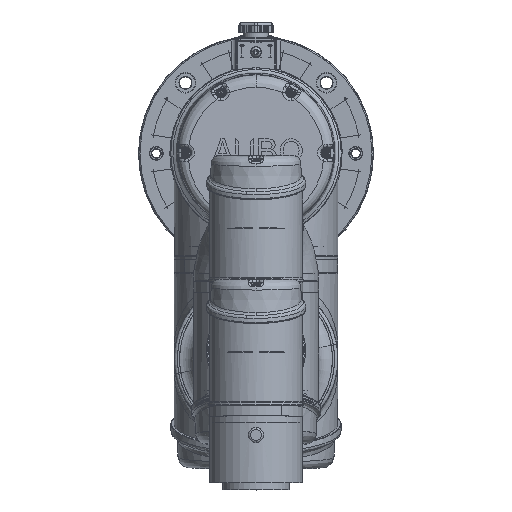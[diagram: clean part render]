
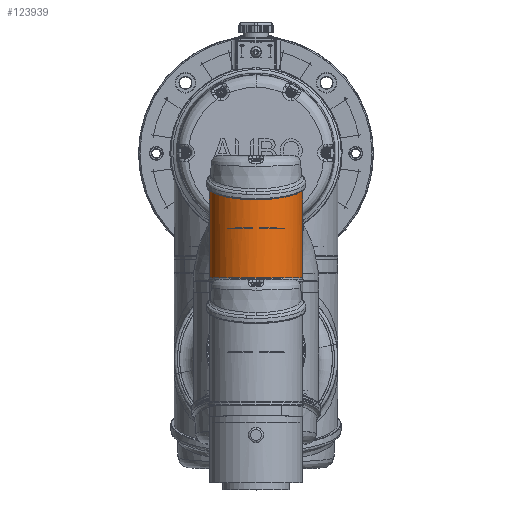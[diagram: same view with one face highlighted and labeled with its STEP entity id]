
A CAD part, top view. The second image highlights one B-rep face of the part: STEP entity #123939.
In plain terms, the highlighted cylindrical face has radius 43.5 mm (diameter 87 mm), a partial arc.
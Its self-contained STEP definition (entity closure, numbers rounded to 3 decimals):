
#1757 = VERTEX_POINT ( 'NONE', #80976 ) ;
#4705 = DIRECTION ( 'NONE',  ( 0., 0., 1. ) ) ;
#5642 = CARTESIAN_POINT ( 'NONE',  ( 234.37, -37.85, -43.501 ) ) ;
#14863 = CARTESIAN_POINT ( 'NONE',  ( 234.37, 50.424, -43.501 ) ) ;
#20377 = CARTESIAN_POINT ( 'NONE',  ( 277.87, 46.424, -0.001 ) ) ;
#24865 = EDGE_LOOP ( 'NONE', ( #201628, #228694, #94414, #209043, #199135, #112340, #179066 ) ) ;
#30507 = CARTESIAN_POINT ( 'NONE',  ( 234.37, 46.424, -0.001 ) ) ;
#34191 = VECTOR ( 'NONE', #182249, 1000. ) ;
#42222 = DIRECTION ( 'NONE',  ( 0., 1., 0. ) ) ;
#42773 = LINE ( 'NONE', #98422, #199361 ) ;
#48316 = CIRCLE ( 'NONE', #206643, 43.5 ) ;
#49306 = EDGE_CURVE ( 'NONE', #203910, #199887, #42773, .T. ) ;
#50416 = LINE ( 'NONE', #183429, #57322 ) ;
#53633 = CARTESIAN_POINT ( 'NONE',  ( 234.37, 50.424, -0.001 ) ) ;
#54816 = DIRECTION ( 'NONE',  ( 0., 0., -1. ) ) ;
#54894 = VERTEX_POINT ( 'NONE', #190217 ) ;
#57322 = VECTOR ( 'NONE', #145964, 1000. ) ;
#57649 = CARTESIAN_POINT ( 'NONE',  ( 321.37, -14.538, 43.499 ) ) ;
#60060 = CARTESIAN_POINT ( 'NONE',  ( 234.37, -37.85, 43.499 ) ) ;
#66607 = CARTESIAN_POINT ( 'NONE',  ( 234.37, 46.424, -43.501 ) ) ;
#70445 = DIRECTION ( 'NONE',  ( 0., -1., 0. ) ) ;
#73653 = AXIS2_PLACEMENT_3D ( 'NONE', #30507, #88529, #234856 ) ;
#80976 = CARTESIAN_POINT ( 'NONE',  ( 234.37, -37.85, 43.499 ) ) ;
#88236 = AXIS2_PLACEMENT_3D ( 'NONE', #53633, #125170, #54816 ) ;
#88529 = DIRECTION ( 'NONE',  ( 0., 1., 0. ) ) ;
#94414 = ORIENTED_EDGE ( 'NONE', *, *, #140500, .T. ) ;
#98422 = CARTESIAN_POINT ( 'NONE',  ( 234.37, 50.424, 43.499 ) ) ;
#98806 = CARTESIAN_POINT ( 'NONE',  ( 321.37, -14.538, -43.501 ) ) ;
#100526 = VERTEX_POINT ( 'NONE', #20377 ) ;
#105319 = EDGE_CURVE ( 'NONE', #100526, #127688, #48316, .T. ) ;
#108538 = LINE ( 'NONE', #164045, #34191 ) ;
#112340 = ORIENTED_EDGE ( 'NONE', *, *, #224281, .F. ) ;
#112626 = EDGE_CURVE ( 'NONE', #203910, #100526, #177947, .T. ) ;
#117017 = CARTESIAN_POINT ( 'NONE',  ( 234.37, -1.076, -43.501 ) ) ;
#122600 = LINE ( 'NONE', #14863, #129263 ) ;
#123939 = ADVANCED_FACE ( 'NONE', ( #179502 ), #128720, .T. ) ;
#125170 = DIRECTION ( 'NONE',  ( 0., -1., 0. ) ) ;
#127281 = EDGE_CURVE ( 'NONE', #54894, #1757, #128375, .T. ) ;
#127688 = VERTEX_POINT ( 'NONE', #66607 ) ;
#128375 =( BOUNDED_CURVE ( )  B_SPLINE_CURVE ( 3, ( #5642, #98806, #57649, #60060 ),
 .UNSPECIFIED., .F., .F. ) 
 B_SPLINE_CURVE_WITH_KNOTS ( ( 4, 4 ),
 ( 1.571, 4.712 ),
 .UNSPECIFIED. ) 
 CURVE ( )  GEOMETRIC_REPRESENTATION_ITEM ( )  RATIONAL_B_SPLINE_CURVE ( ( 1., 0.333, 0.333, 1. ) ) 
 REPRESENTATION_ITEM ( '' )  );
#128720 = CYLINDRICAL_SURFACE ( 'NONE', #88236, 43.5 ) ;
#129263 = VECTOR ( 'NONE', #70445, 1000. ) ;
#130600 = EDGE_CURVE ( 'NONE', #195270, #54894, #122600, .T. ) ;
#140500 = EDGE_CURVE ( 'NONE', #199887, #1757, #50416, .T. ) ;
#145964 = DIRECTION ( 'NONE',  ( 0., -1., 0. ) ) ;
#164045 = CARTESIAN_POINT ( 'NONE',  ( 234.37, 50.424, -43.501 ) ) ;
#177947 = CIRCLE ( 'NONE', #73653, 43.5 ) ;
#179066 = ORIENTED_EDGE ( 'NONE', *, *, #105319, .F. ) ;
#179502 = FACE_OUTER_BOUND ( 'NONE', #24865, .T. ) ;
#182249 = DIRECTION ( 'NONE',  ( 0., -1., 0. ) ) ;
#183429 = CARTESIAN_POINT ( 'NONE',  ( 234.37, 50.424, 43.499 ) ) ;
#190217 = CARTESIAN_POINT ( 'NONE',  ( 234.37, -37.85, -43.501 ) ) ;
#195270 = VERTEX_POINT ( 'NONE', #117017 ) ;
#198710 = CARTESIAN_POINT ( 'NONE',  ( 234.37, 46.424, 43.499 ) ) ;
#199135 = ORIENTED_EDGE ( 'NONE', *, *, #130600, .F. ) ;
#199361 = VECTOR ( 'NONE', #230220, 1000. ) ;
#199887 = VERTEX_POINT ( 'NONE', #237646 ) ;
#201628 = ORIENTED_EDGE ( 'NONE', *, *, #112626, .F. ) ;
#203910 = VERTEX_POINT ( 'NONE', #198710 ) ;
#206643 = AXIS2_PLACEMENT_3D ( 'NONE', #222507, #42222, #4705 ) ;
#209043 = ORIENTED_EDGE ( 'NONE', *, *, #127281, .F. ) ;
#222507 = CARTESIAN_POINT ( 'NONE',  ( 234.37, 46.424, -0.001 ) ) ;
#224281 = EDGE_CURVE ( 'NONE', #127688, #195270, #108538, .T. ) ;
#228694 = ORIENTED_EDGE ( 'NONE', *, *, #49306, .T. ) ;
#230220 = DIRECTION ( 'NONE',  ( 0., -1., 0. ) ) ;
#234856 = DIRECTION ( 'NONE',  ( 0., 0., 1. ) ) ;
#237646 = CARTESIAN_POINT ( 'NONE',  ( 234.37, -1.076, 43.499 ) ) ;
